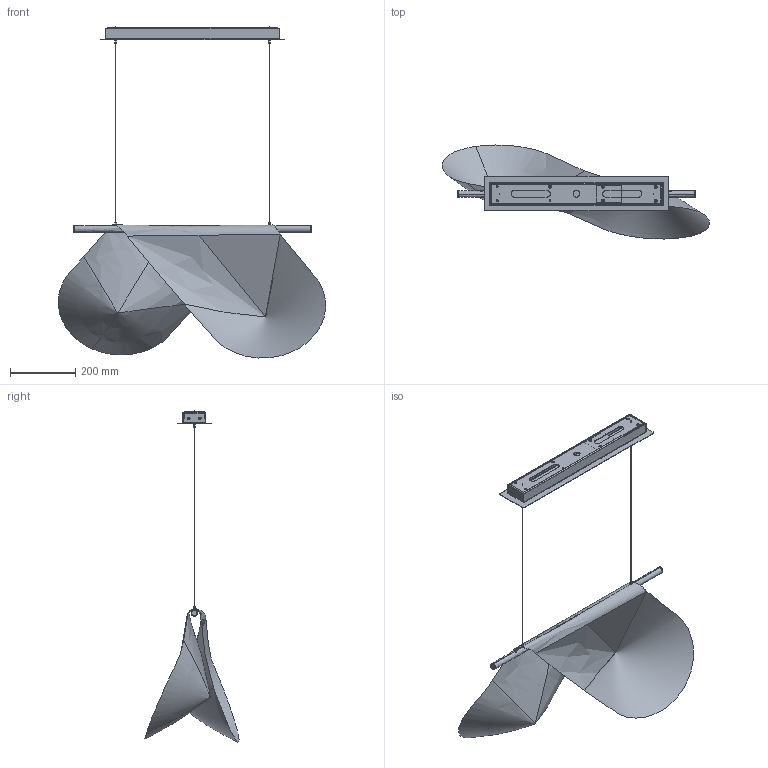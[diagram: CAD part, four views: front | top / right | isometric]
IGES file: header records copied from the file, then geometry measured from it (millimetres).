
Start section: SolidWorks IGES file using analytic representation for surfaces
Global section: file name: C:\Users\andreap\Desktop\dc 3d leggeri\3D_leggero_TWIST SOSPENSIONE.IGS; native system: SolidWorks 2020; preprocessor: SolidWorks 2020; author: andreap; date: 220622.103726; units: millimetre
Bounding box: 817.5 x 287.55 x 1015.27 mm (x, y, z)
Surface area: 817167.3 mm2 (no closed solid volume)
Topology: 0 solids, 0 shells, 154 faces, 2930 edges, 2927 vertices
Faces by surface type: revolution 84, bspline 70
